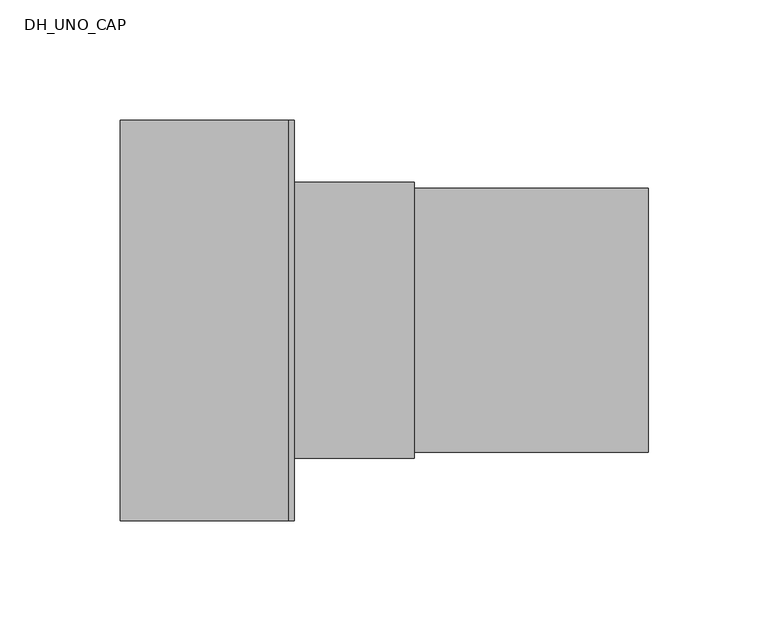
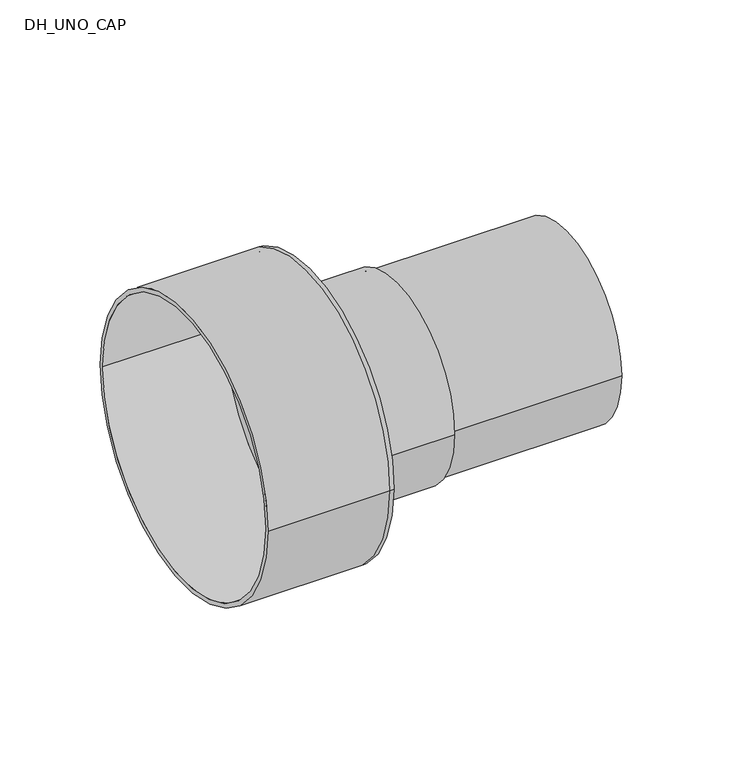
"""IFC4 building model written with IfcOpenShell, lengths in millimetres: pipe fitting geometry, DH_UNO_CAP : RAUTHERMEX UNO 11 COOL - Rubber Cap."""

from ifc_helpers import new_model, si_unit, point, frame, origin, origin_2d, place, context, project, spatial, polyline, circle_curve, trimmed, segment, composite_curve, outline, extrude, source, transform, mapped, element, save
from ifc_brep_helpers import plane_surface, cylinder_surface, revolved_surface, advanced_brep


def dh_uno_cap_92e64040(model_context):
    return source(origin(), model_context, "Body", "SolidModel", [
        extrude(outline(composite_curve([segment(trimmed(circle_curve(origin_2d(), 55.0), [point((-55.0, 0.0))], [point((55.0, 0.0))], False, "CARTESIAN"), True, "CONTINUOUS"), segment(trimmed(circle_curve(origin_2d(), 55.0), [point((55.0, 0.0))], [point((-55.0, 0.0))], False, "CARTESIAN"), True, "CONTINUOUS")], self_intersect=False), holes=[composite_curve([segment(trimmed(circle_curve(origin_2d(), 45.0), [point((-45.0, 0.0))], [point((45.0, 0.0))], True, "CARTESIAN"), True, "CONTINUOUS"), segment(trimmed(circle_curve(origin_2d(), 45.0), [point((45.0, 0.0))], [point((-45.0, 0.0))], True, "CARTESIAN"), True, "CONTINUOUS")], self_intersect=False)]), frame((0.0, 0.0, 0.0), z_axis=(1.0, 0.0, 0.0), x_axis=(0.0, 1.0, 0.0)), (0.0, 0.0, 1.0), 150.0),
        advanced_brep(
        [(-70.0, -83.5, 0.0), (-70.0, 83.5, 0.0), (-70.0, -81.0, 0.0), (-70.0, 81.0, 0.0), (0.0, -81.0, 0.0), (0.0, 81.0, 0.0), (0.0, -83.5, 0.0), (0.0, 83.5, 0.0), (0.0, 55.0, 0.0), (0.0, -55.0, 0.0), (2.5, -83.5, 0.0), (2.5, 83.5, 0.0), (2.5, -55.0, 0.0), (2.5, 55.0, 0.0)],
        [
            (0, 1, circle_curve(frame((-70.0, 0.0, 0.0), z_axis=(-1.0, 0.0, 0.0), x_axis=(0.0, 1.0, 0.0)), 83.5)),
            (1, 0, circle_curve(frame((-70.0, 0.0, 0.0), z_axis=(-1.0, 0.0, 0.0), x_axis=(0.0, 1.0, 0.0)), 83.5)),
            (2, 3, circle_curve(frame((-70.0, 0.0, 0.0), z_axis=(1.0, 0.0, 0.0), x_axis=(0.0, 1.0, 0.0)), 81.0)),
            (3, 2, circle_curve(frame((-70.0, 0.0, 0.0), z_axis=(1.0, 0.0, 0.0), x_axis=(0.0, 1.0, 0.0)), 81.0)),
            (2, 4),
            (4, 5, circle_curve(frame((0.0, 0.0, 0.0), z_axis=(1.0, 0.0, 0.0), x_axis=(0.0, 1.0, 0.0)), 81.0)),
            (5, 3),
            (5, 4, circle_curve(frame((0.0, 0.0, 0.0), z_axis=(1.0, 0.0, 0.0), x_axis=(0.0, 1.0, 0.0)), 81.0)),
            (0, 6),
            (6, 7, circle_curve(frame((0.0, 0.0, 0.0), z_axis=(-1.0, 0.0, 0.0), x_axis=(0.0, 1.0, 0.0)), 83.5)),
            (7, 1),
            (7, 6, circle_curve(frame((0.0, 0.0, 0.0), z_axis=(-1.0, 0.0, 0.0), x_axis=(0.0, 1.0, 0.0)), 83.5)),
            (8, 9, circle_curve(frame((0.0, 0.0, 0.0), z_axis=(1.0, 0.0, 0.0), x_axis=(0.0, 1.0, 0.0)), 55.0)),
            (9, 8, circle_curve(frame((0.0, 0.0, 0.0), z_axis=(1.0, 0.0, 0.0), x_axis=(0.0, 1.0, 0.0)), 55.0)),
            (10, 11, circle_curve(frame((2.5, 0.0, 0.0), z_axis=(1.0, 0.0, 0.0), x_axis=(0.0, 1.0, 0.0)), 83.5)),
            (11, 10, circle_curve(frame((2.5, 0.0, 0.0), z_axis=(1.0, 0.0, 0.0), x_axis=(0.0, 1.0, 0.0)), 83.5)),
            (12, 13, circle_curve(frame((2.5, 0.0, 0.0), z_axis=(-1.0, 0.0, 0.0), x_axis=(0.0, 1.0, 0.0)), 55.0)),
            (13, 12, circle_curve(frame((2.5, 0.0, 0.0), z_axis=(-1.0, 0.0, 0.0), x_axis=(0.0, 1.0, 0.0)), 55.0)),
            (11, 7),
            (6, 10),
            (8, 13),
            (12, 9),
        ],
        [
            plane_surface(frame((-70.0, 0.0, 0.0), z_axis=(-1.0, 0.0, 0.0), x_axis=(0.0, 0.0, 1.0))),
            revolved_surface(polyline([(0.0, 81.0, 0.0), (-70.0, 81.0, 0.0)]), (-70.0, 0.0, 0.0), (1.0, 0.0, 0.0)),
            cylinder_surface(frame((-70.0, 0.0, 0.0), z_axis=(-1.0, 0.0, 0.0), x_axis=(0.0, 1.0, 0.0)), 83.5),
            plane_surface(frame((0.0, 0.0, 0.0), z_axis=(-1.0, 0.0, 0.0), x_axis=(0.0, 0.0, 1.0))),
            plane_surface(frame((2.5, 0.0, 0.0), z_axis=(1.0, 0.0, 0.0), x_axis=(0.0, 0.0, 1.0))),
            cylinder_surface(frame((0.0, 0.0, 0.0), z_axis=(-1.0, 0.0, 0.0), x_axis=(0.0, 1.0, 0.0)), 83.5),
            revolved_surface(polyline([(0.0, 55.0, 0.0), (2.5, 55.0, 0.0)]), (0.0, 0.0, 0.0), (-1.0, 0.0, 0.0)),
        ],
        [
            (0, [[1, 2], [3, 4]]),
            (1, [[-3, 5, 6, 7]]),
            (1, [[-4, -7, 8, -5]]),
            (2, [[-1, 9, 10, 11]]),
            (2, [[-2, -11, 12, -9]]),
            (3, [[-6, -8], [13, 14]]),
            (4, [[15, 16], [17, 18]]),
            (5, [[-16, 19, -10, 20]]),
            (5, [[-15, -20, -12, -19]]),
            (6, [[21, -17, 22, -13]]),
            (6, [[-21, -14, -22, -18]]),
        ],
    ),
        extrude(outline(composite_curve([segment(trimmed(circle_curve(origin_2d(), 57.5), [point((-57.5, 0.0))], [point((57.5, 0.0))], False, "CARTESIAN"), True, "CONTINUOUS"), segment(trimmed(circle_curve(origin_2d(), 57.5), [point((57.5, 0.0))], [point((-57.5, 0.0))], False, "CARTESIAN"), True, "CONTINUOUS")], self_intersect=False), holes=[composite_curve([segment(trimmed(circle_curve(origin_2d(), 55.0), [point((-55.0, 0.0))], [point((55.0, 0.0))], True, "CARTESIAN"), True, "CONTINUOUS"), segment(trimmed(circle_curve(origin_2d(), 55.0), [point((55.0, 0.0))], [point((-55.0, 0.0))], True, "CARTESIAN"), True, "CONTINUOUS")], self_intersect=False)]), frame((2.5, 0.0, 0.0), z_axis=(1.0, 0.0, 0.0), x_axis=(0.0, 1.0, 0.0)), (0.0, 0.0, 1.0), 50.0),
    ])


if __name__ == "__main__":
    model = new_model("IFC4")
    model_context = context("Model", 3, world=origin())
    ifc_project = project(units=[si_unit("LENGTHUNIT", "METRE", prefix="MILLI")], contexts=[model_context])
    site = spatial("IfcSite", under=ifc_project)
    building = spatial("IfcBuilding", under=site)
    placement = place(None, origin())
    dh_uno_cap_shape = dh_uno_cap_92e64040(model_context)
    element("IfcPipeFitting", 1, ObjectType="DH_UNO_CAP : RAUTHERMEX UNO 11 COOL - Rubber Cap", at=placement, inside=building, context=model_context, shape_type="MappedRepresentation", body=[
        mapped(dh_uno_cap_shape, transform((0.0, 0.0, 0.0), x_axis=(1.0, 0.0, 0.0), y_axis=(0.0, 1.0, 0.0), z_axis=(0.0, 0.0, 1.0))),
    ])
    save(model, "model.ifc")
